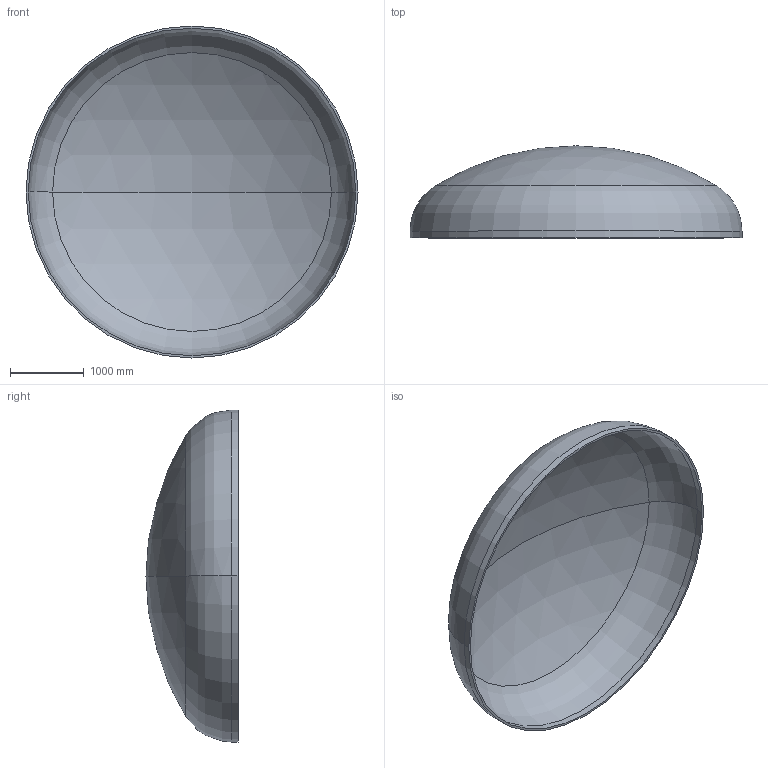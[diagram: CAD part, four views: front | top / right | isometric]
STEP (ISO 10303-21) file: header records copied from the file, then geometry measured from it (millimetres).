
FILE_DESCRIPTION (( 'STEP AP203' ), '1' );
FILE_NAME ('DIN 28013 Korbbogenform_-_Boden DIN 28013 - 4500 x 90 - I - s=30.step', '2016-07-01T23:16:34', ( '' ), ( '' ), 'SwSTEP 2.0', 'SolidWorks 2013', '' );
FILE_SCHEMA (( 'CONFIG_CONTROL_DESIGN' ));
Length unit declared in the file: millimetre
Products named in the file (1): DIN 28013 Korbbogenform_-_Boden DIN 28013 - 4500 x 90 - I - s=30
Bounding box: 4500 x 1247.47 x 4500 mm (x, y, z)
Volume: 693313448.7 mm3; surface area: 46644051.3 mm2
Topology: 1 solids, 1 shells, 13 faces, 24 edges, 14 vertices
Faces by surface type: torus 4, cylinder 4, sphere 4, plane 1
Entity records: 407 total; most frequent: DIRECTION 72, CARTESIAN_POINT 52, ORIENTED_EDGE 48, AXIS2_PLACEMENT_3D 34, EDGE_CURVE 24, CIRCLE 20, VERTEX_POINT 14, EDGE_LOOP 14
